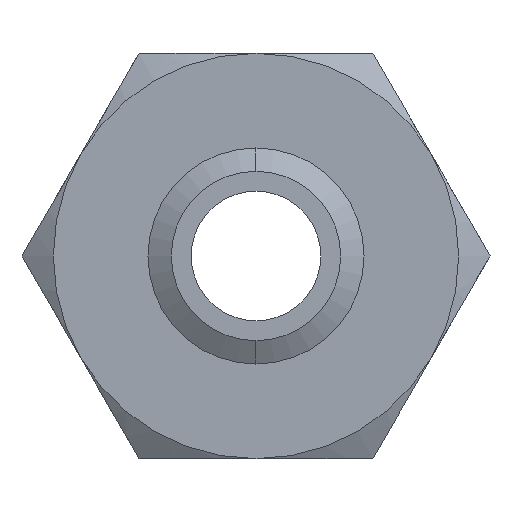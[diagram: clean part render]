
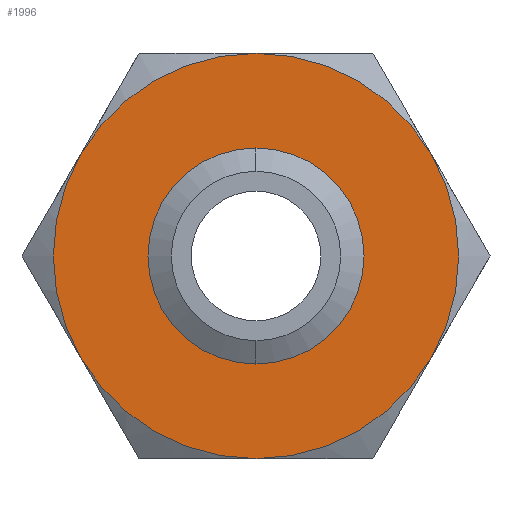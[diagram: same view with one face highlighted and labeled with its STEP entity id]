
A CAD part, front view. The second image highlights one B-rep face of the part: STEP entity #1996.
In plain terms, the highlighted planar face has unit normal (0, -1, 0).
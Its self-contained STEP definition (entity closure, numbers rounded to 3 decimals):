
#87 = EDGE_CURVE ( 'NONE', #342, #341, #571, .T. ) ;
#340 = EDGE_CURVE ( 'NONE', #341, #342, #1069, .T. ) ;
#341 = VERTEX_POINT ( 'NONE', #1061 ) ;
#342 = VERTEX_POINT ( 'NONE', #1060 ) ;
#567 = DIRECTION ( 'NONE',  ( 0., 0., -1. ) ) ;
#568 = DIRECTION ( 'NONE',  ( 0., -1., 0. ) ) ;
#569 = CARTESIAN_POINT ( 'NONE',  ( 0., 0., 0. ) ) ;
#570 = AXIS2_PLACEMENT_3D ( 'NONE', #569, #568, #567 ) ;
#571 = CIRCLE ( 'NONE', #570, 15.67 ) ;
#1060 = CARTESIAN_POINT ( 'NONE',  ( 0., 0., 15.67 ) ) ;
#1061 = CARTESIAN_POINT ( 'NONE',  ( 0., 0., -15.67 ) ) ;
#1062 = DIRECTION ( 'NONE',  ( 0., 0., -1. ) ) ;
#1063 = DIRECTION ( 'NONE',  ( 0., -1., 0. ) ) ;
#1064 = CARTESIAN_POINT ( 'NONE',  ( 0., 0., 0. ) ) ;
#1065 = AXIS2_PLACEMENT_3D ( 'NONE', #1064, #1063, #1062 ) ;
#1069 = CIRCLE ( 'NONE', #1065, 15.67 ) ;
#1509 = CARTESIAN_POINT ( 'NONE',  ( -32.476, 0., 18.75 ) ) ;
#1515 = CARTESIAN_POINT ( 'NONE',  ( 32.476, 0., 18.75 ) ) ;
#1516 = CARTESIAN_POINT ( 'NONE',  ( 0., 0., 37.5 ) ) ;
#1522 = DIRECTION ( 'NONE',  ( 0., 0., 1. ) ) ;
#1523 = DIRECTION ( 'NONE',  ( 0., 1., 0. ) ) ;
#1524 = CARTESIAN_POINT ( 'NONE',  ( 0., 0., 0. ) ) ;
#1525 = AXIS2_PLACEMENT_3D ( 'NONE', #1524, #1523, #1522 ) ;
#1526 = CIRCLE ( 'NONE', #1525, 37.5 ) ;
#1527 = CARTESIAN_POINT ( 'NONE',  ( 0., 0., -37.5 ) ) ;
#1528 = CARTESIAN_POINT ( 'NONE',  ( -32.476, 0., -18.75 ) ) ;
#1530 = DIRECTION ( 'NONE',  ( 0., 0., 1. ) ) ;
#1531 = DIRECTION ( 'NONE',  ( 0., 1., 0. ) ) ;
#1532 = CARTESIAN_POINT ( 'NONE',  ( 0., 0., 0. ) ) ;
#1533 = AXIS2_PLACEMENT_3D ( 'NONE', #1532, #1531, #1530 ) ;
#1534 = CIRCLE ( 'NONE', #1533, 37.5 ) ;
#1536 = CARTESIAN_POINT ( 'NONE',  ( 32.476, 0., -18.75 ) ) ;
#1543 = DIRECTION ( 'NONE',  ( 0., 0., 1. ) ) ;
#1544 = DIRECTION ( 'NONE',  ( 0., 1., 0. ) ) ;
#1545 = CARTESIAN_POINT ( 'NONE',  ( 0., 0., 0. ) ) ;
#1546 = AXIS2_PLACEMENT_3D ( 'NONE', #1545, #1544, #1543 ) ;
#1548 = DIRECTION ( 'NONE',  ( 0., 0., 1. ) ) ;
#1549 = DIRECTION ( 'NONE',  ( 0., 1., 0. ) ) ;
#1550 = CARTESIAN_POINT ( 'NONE',  ( 21.651, 0., -37.5 ) ) ;
#1551 = CIRCLE ( 'NONE', #1546, 37.5 ) ;
#1552 = AXIS2_PLACEMENT_3D ( 'NONE', #1550, #1549, #1548 ) ;
#1553 = PLANE ( 'NONE',  #1552 ) ;
#1554 = FACE_BOUND ( 'NONE', #2006, .T. ) ;
#1555 = FACE_OUTER_BOUND ( 'NONE', #1988, .T. ) ;
#1570 = DIRECTION ( 'NONE',  ( 0., 0., 1. ) ) ;
#1571 = DIRECTION ( 'NONE',  ( 0., 1., 0. ) ) ;
#1572 = CARTESIAN_POINT ( 'NONE',  ( 0., 0., 0. ) ) ;
#1573 = AXIS2_PLACEMENT_3D ( 'NONE', #1572, #1571, #1570 ) ;
#1574 = CIRCLE ( 'NONE', #1573, 37.5 ) ;
#1585 = DIRECTION ( 'NONE',  ( 0., 0., 1. ) ) ;
#1586 = DIRECTION ( 'NONE',  ( 0., 1., 0. ) ) ;
#1587 = CARTESIAN_POINT ( 'NONE',  ( 0., 0., 0. ) ) ;
#1588 = AXIS2_PLACEMENT_3D ( 'NONE', #1587, #1586, #1585 ) ;
#1589 = CIRCLE ( 'NONE', #1588, 37.5 ) ;
#1590 = DIRECTION ( 'NONE',  ( 0., 0., 1. ) ) ;
#1591 = DIRECTION ( 'NONE',  ( 0., 1., 0. ) ) ;
#1592 = CARTESIAN_POINT ( 'NONE',  ( 0., 0., 0. ) ) ;
#1593 = AXIS2_PLACEMENT_3D ( 'NONE', #1592, #1591, #1590 ) ;
#1598 = CIRCLE ( 'NONE', #1593, 37.5 ) ;
#1964 = ORIENTED_EDGE ( 'NONE', *, *, #2005, .F. ) ;
#1967 = VERTEX_POINT ( 'NONE', #1536 ) ;
#1970 = ORIENTED_EDGE ( 'NONE', *, *, #1997, .F. ) ;
#1971 = EDGE_CURVE ( 'NONE', #1977, #1975, #1534, .T. ) ;
#1975 = VERTEX_POINT ( 'NONE', #1528 ) ;
#1976 = ORIENTED_EDGE ( 'NONE', *, *, #1971, .F. ) ;
#1977 = VERTEX_POINT ( 'NONE', #1527 ) ;
#1978 = ORIENTED_EDGE ( 'NONE', *, *, #1979, .F. ) ;
#1979 = EDGE_CURVE ( 'NONE', #1967, #1977, #1526, .T. ) ;
#1982 = VERTEX_POINT ( 'NONE', #1516 ) ;
#1983 = VERTEX_POINT ( 'NONE', #1515 ) ;
#1984 = VERTEX_POINT ( 'NONE', #1509 ) ;
#1985 = ORIENTED_EDGE ( 'NONE', *, *, #2007, .F. ) ;
#1987 = EDGE_CURVE ( 'NONE', #1982, #1983, #1574, .T. ) ;
#1988 = EDGE_LOOP ( 'NONE', ( #1989, #1985, #1970, #1976, #1978, #1964 ) ) ;
#1989 = ORIENTED_EDGE ( 'NONE', *, *, #1987, .F. ) ;
#1996 = ADVANCED_FACE ( 'NONE', ( #1555, #1554 ), #1553, .F. ) ;
#1997 = EDGE_CURVE ( 'NONE', #1975, #1984, #1551, .T. ) ;
#2004 = ORIENTED_EDGE ( 'NONE', *, *, #340, .F. ) ;
#2005 = EDGE_CURVE ( 'NONE', #1983, #1967, #1598, .T. ) ;
#2006 = EDGE_LOOP ( 'NONE', ( #2004, #2013 ) ) ;
#2007 = EDGE_CURVE ( 'NONE', #1984, #1982, #1589, .T. ) ;
#2013 = ORIENTED_EDGE ( 'NONE', *, *, #87, .F. ) ;
